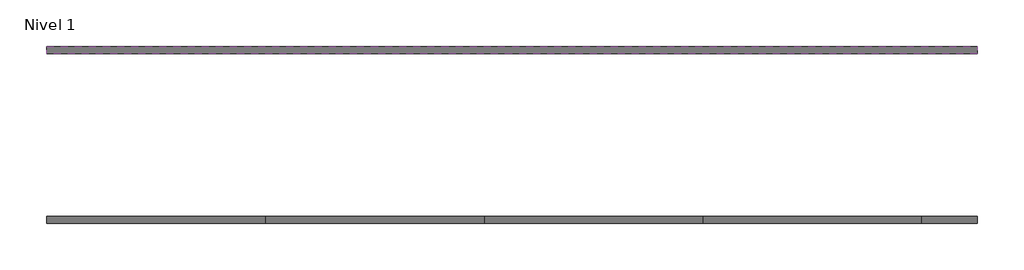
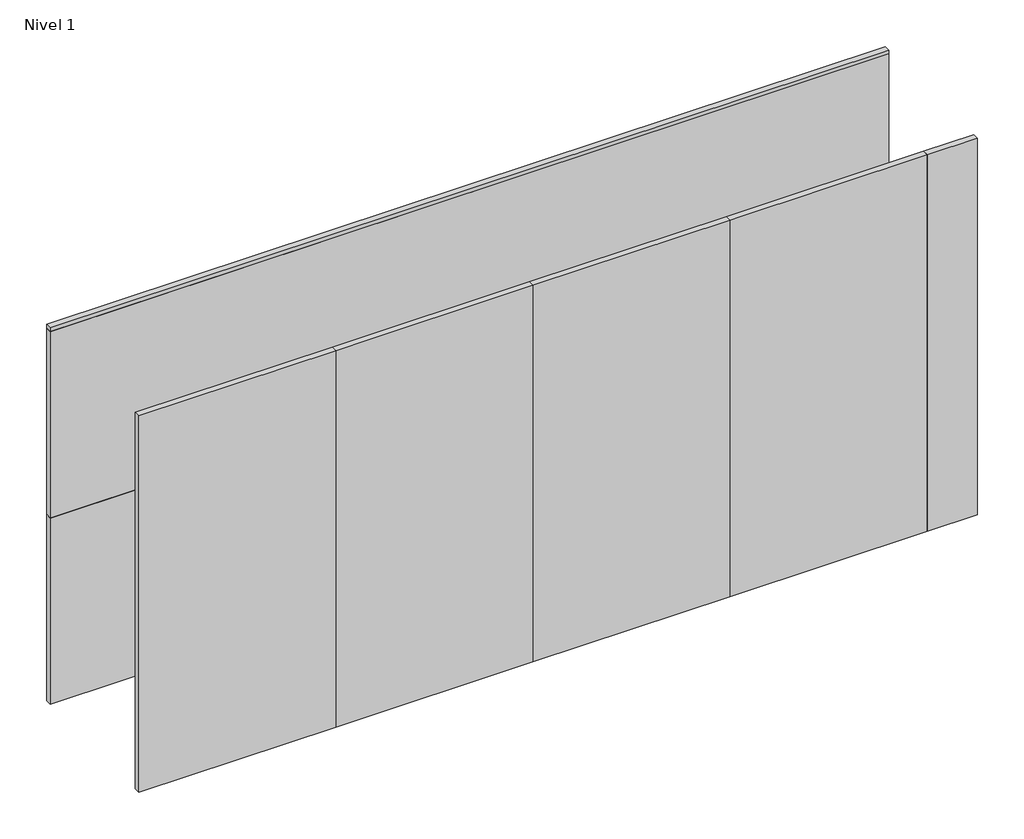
# One storey: 8 plates.
"""IFC4 building model written with IfcOpenShell, lengths in millimetres."""

from ifc_helpers import new_model, si_unit, origin, place, context, project, spatial, transform, mapped, element, save
from components import panel_del_sistema_3412c4c4, panel_del_sistema_d2294818, panel_del_sistema_2f02c7ae, panel_del_sistema_081031d1

model = new_model("IFC4")

# Units and contexts
model_context = context("Model", 3, world=origin())
ifc_project = project(units=[si_unit("LENGTHUNIT", "METRE", prefix="MILLI")], contexts=[model_context])

# Site, building, storey
site = spatial("IfcSite", under=ifc_project)
building = spatial("IfcBuilding", under=site)
storey = spatial("IfcBuildingStorey", under=building, Name="Nivel 1", Elevation=0.0)

# Plates
placement = place(None, origin())
panel_del_sistema_shape = panel_del_sistema_3412c4c4(model_context)
element("IfcPlate", 1, ObjectType="Panel del sistema : HIANSA - CHAPA PERFILADA CUBIERTA - MT32F Hor", at=placement, inside=storey, context=model_context, shape_type="MappedRepresentation", body=[
    mapped(panel_del_sistema_shape, transform((6468.14367, 18436.5269271, 0.0), x_axis=(1.0, 0.0, 0.0), y_axis=(0.0, 1.0, 0.0), z_axis=(0.0, 0.0, 1.0))),
])
element("IfcPlate", 2, ObjectType="Panel del sistema : HIANSA - CHAPA PERFILADA CUBIERTA - MT32F Hor", at=placement, inside=storey, context=model_context, shape_type="MappedRepresentation", body=[
    mapped(panel_del_sistema_shape, transform((6468.14367, 18436.5269271, 1000.0), x_axis=(1.0, 0.0, 0.0), y_axis=(0.0, 1.0, 0.0), z_axis=(0.0, 0.0, 1.0))),
])
panel_del_sistema_2_shape = panel_del_sistema_d2294818(model_context)
element("IfcPlate", 3, ObjectType="Panel del sistema : HIANSA - CHAPA PERFILADA CUBIERTA - MT32F Hor", at=placement, inside=storey, context=model_context, shape_type="MappedRepresentation", body=[
    mapped(panel_del_sistema_2_shape, transform((6468.14367, 18436.5269271, 2000.0), x_axis=(1.0, 0.0, 0.0), y_axis=(0.0, 1.0, 0.0), z_axis=(0.0, 0.0, 1.0))),
])
panel_del_sistema_3_shape = panel_del_sistema_2f02c7ae(model_context)
element("IfcPlate", 4, ObjectType="Panel del sistema : HIANSA - CHAPA PERFILADA CUBIERTA - MT32F Vert", at=placement, inside=storey, context=model_context, shape_type="MappedRepresentation", body=[
    mapped(panel_del_sistema_3_shape, transform((4840.1436702, 17658.0269271, 0.0), x_axis=(1.0, 0.0, 0.0), y_axis=(0.0, 1.0, 0.0), z_axis=(0.0, 0.0, 1.0))),
])
element("IfcPlate", 5, ObjectType="Panel del sistema : HIANSA - CHAPA PERFILADA CUBIERTA - MT32F Vert", at=placement, inside=storey, context=model_context, shape_type="MappedRepresentation", body=[
    mapped(panel_del_sistema_3_shape, transform((6840.1436703, 17658.0269271, 0.0), x_axis=(1.0, 0.0, 0.0), y_axis=(0.0, 1.0, 0.0), z_axis=(0.0, 0.0, 1.0))),
])
element("IfcPlate", 6, ObjectType="Panel del sistema : HIANSA - CHAPA PERFILADA CUBIERTA - MT32F Vert", at=placement, inside=storey, context=model_context, shape_type="MappedRepresentation", body=[
    mapped(panel_del_sistema_3_shape, transform((7840.1436703, 17658.0269271, 0.0), x_axis=(1.0, 0.0, 0.0), y_axis=(0.0, 1.0, 0.0), z_axis=(0.0, 0.0, 1.0))),
])
element("IfcPlate", 7, ObjectType="Panel del sistema : HIANSA - CHAPA PERFILADA CUBIERTA - MT32F Vert", at=placement, inside=storey, context=model_context, shape_type="MappedRepresentation", body=[
    mapped(panel_del_sistema_3_shape, transform((5840.1436703, 17658.0269271, 0.0), x_axis=(1.0, 0.0, 0.0), y_axis=(0.0, 1.0, 0.0), z_axis=(0.0, 0.0, 1.0))),
])
panel_del_sistema_4_shape = panel_del_sistema_081031d1(model_context)
element("IfcPlate", 8, ObjectType="Panel del sistema : HIANSA - CHAPA PERFILADA CUBIERTA - MT32F Vert", at=placement, inside=storey, context=model_context, shape_type="MappedRepresentation", body=[
    mapped(panel_del_sistema_4_shape, transform((8468.1436702, 17658.0269271, 0.0), x_axis=(1.0, 0.0, 0.0), y_axis=(0.0, 1.0, 0.0), z_axis=(0.0, 0.0, 1.0))),
])

save(model, "model.ifc")
